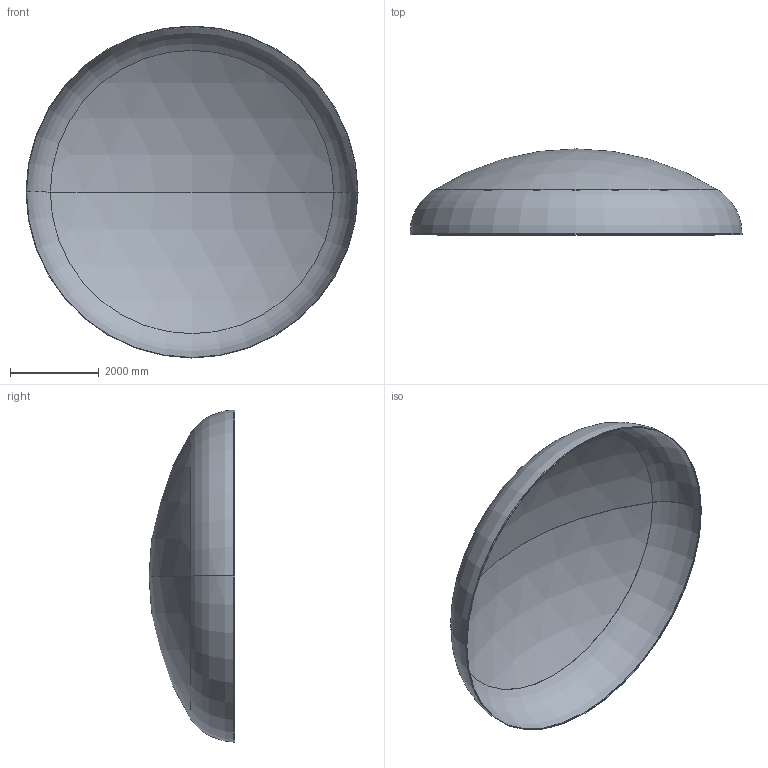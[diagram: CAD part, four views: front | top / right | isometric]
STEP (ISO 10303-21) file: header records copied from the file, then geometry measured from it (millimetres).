
FILE_DESCRIPTION (( 'STEP AP203' ), '1' );
FILE_NAME ('DIN 28013 Korbbogenform_-_Boden DIN 28013 - 7500 x 30 - I - s=10.step', '2016-07-04T10:51:14', ( '' ), ( '' ), 'SwSTEP 2.0', 'SolidWorks 2013', '' );
FILE_SCHEMA (( 'CONFIG_CONTROL_DESIGN' ));
Length unit declared in the file: millimetre
Products named in the file (1): DIN 28013 Korbbogenform_-_Boden DIN 28013 - 7500 x 30 - I - s=10
Bounding box: 7500 x 1942.22 x 7500 mm (x, y, z)
Volume: 617914957.6 mm3; surface area: 123818454.6 mm2
Topology: 1 solids, 1 shells, 13 faces, 24 edges, 14 vertices
Faces by surface type: torus 4, cylinder 4, sphere 4, plane 1
Entity records: 407 total; most frequent: DIRECTION 72, CARTESIAN_POINT 52, ORIENTED_EDGE 48, AXIS2_PLACEMENT_3D 34, EDGE_CURVE 24, CIRCLE 20, VERTEX_POINT 14, EDGE_LOOP 14
